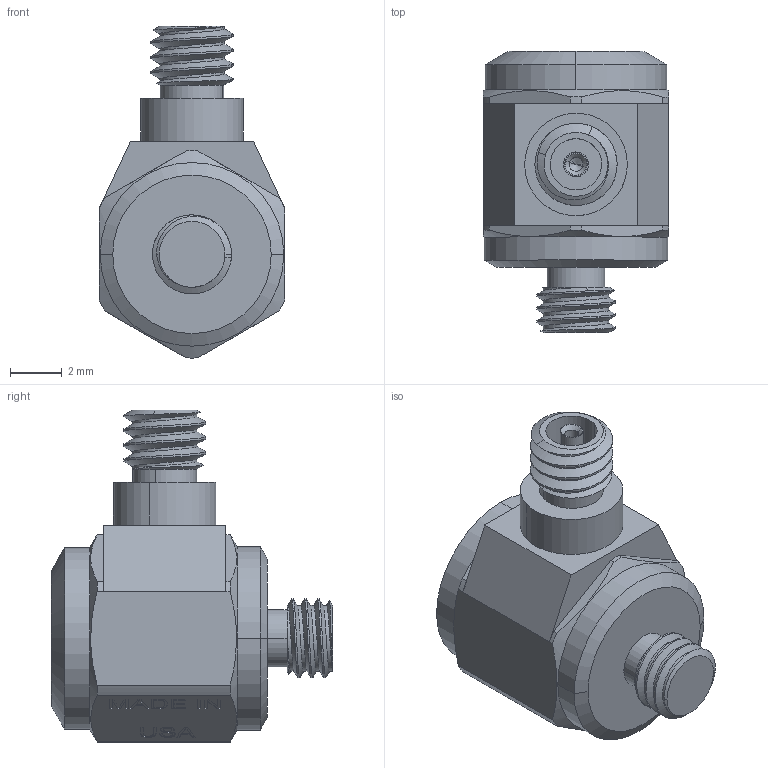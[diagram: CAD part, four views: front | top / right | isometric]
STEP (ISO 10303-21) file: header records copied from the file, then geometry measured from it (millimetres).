
FILE_DESCRIPTION (( 'STEP AP214' ), '1' );
FILE_NAME ('CAD_3035BX.STEP', '2018-03-30T17:34:10', ( 'Dytran' ), ( '' ), 'SwSTEP 2.0', 'SolidWorks 2016', '' );
FILE_SCHEMA (( 'AUTOMOTIVE_DESIGN' ));
Length unit declared in the file: inch
Products named in the file (1): CAD_3035BX
Bounding box: 7.14 x 10.85 x 12.81 mm (x, y, z)
Volume: 417.2 mm3; surface area: 413.5 mm2
Topology: 1 solids, 1 shells, 467 faces, 1250 edges, 825 vertices
Faces by surface type: plane 268, bspline 135, cylinder 42, cone 22
Entity records: 27502 total; most frequent: CARTESIAN_POINT 10744, ORIENTED_EDGE 2496, DIRECTION 1670, EDGE_CURVE 1248, VECTOR 848, LINE 848, VERTEX_POINT 825, EDGE_LOOP 509
